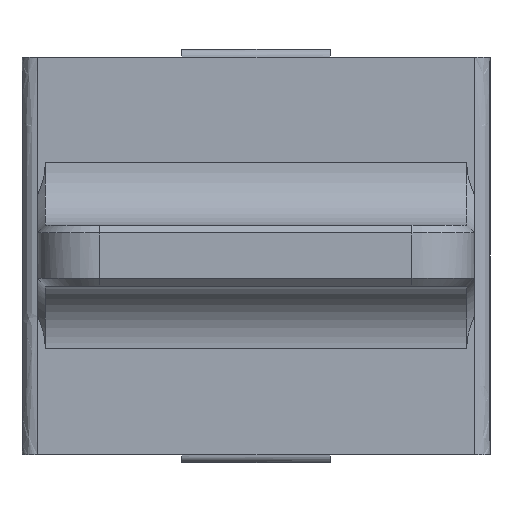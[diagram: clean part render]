
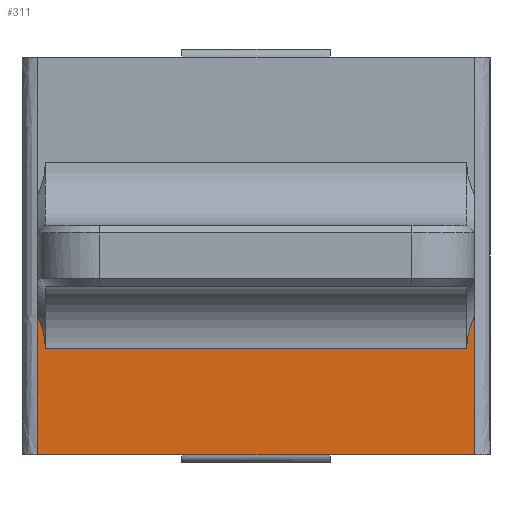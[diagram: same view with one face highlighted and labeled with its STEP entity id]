
A CAD part, front view. The second image highlights one B-rep face of the part: STEP entity #311.
In plain terms, the highlighted planar face has unit normal (0, -1, 0).
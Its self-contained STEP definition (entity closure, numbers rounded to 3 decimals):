
#311=ADVANCED_FACE('',(#863),#5978,.T.);
#863=FACE_OUTER_BOUND('',#1415,.T.);
#1415=EDGE_LOOP('',(#2926,#2927,#2928,#2929,#2930,#2931));
#2926=ORIENTED_EDGE('',*,*,#3962,.T.);
#2927=ORIENTED_EDGE('',*,*,#3939,.F.);
#2928=ORIENTED_EDGE('',*,*,#3935,.T.);
#2929=ORIENTED_EDGE('',*,*,#3966,.F.);
#2930=ORIENTED_EDGE('',*,*,#3965,.T.);
#2931=ORIENTED_EDGE('',*,*,#3381,.F.);
#3381=EDGE_CURVE('',#5235,#5234,#4493,.T.);
#3935=EDGE_CURVE('',#5597,#5596,#4461,.T.);
#3939=EDGE_CURVE('',#5597,#5237,#4465,.T.);
#3962=EDGE_CURVE('',#5235,#5237,#4484,.T.);
#3965=EDGE_CURVE('',#5239,#5234,#4487,.T.);
#3966=EDGE_CURVE('',#5239,#5596,#4488,.T.);
#4461=B_SPLINE_CURVE_WITH_KNOTS('',1,(#11715,#11716),.UNSPECIFIED.,.F.,
 .F.,(2,2),(2.,58.),.UNSPECIFIED.);
#4465=B_SPLINE_CURVE_WITH_KNOTS('',1,(#11723,#11724),.UNSPECIFIED.,.F.,
 .F.,(2,2),(0.,18.121),.UNSPECIFIED.);
#4484=B_SPLINE_CURVE_WITH_KNOTS('',3,(#11773,#11774,#11775,#11776,#11777,
#11778,#11779,#11780,#11781,#11782,#11783,#11784,#11785,#11786,#11787,#11788,
#11789,#11790,#11791,#11792),.UNSPECIFIED.,.F.,.F.,(4,1,1,1,1,1,1,1,1,1,
1,1,1,1,1,1,1,4),(0.,0.973,1.382,1.701,
1.972,2.214,2.436,2.642,2.836,
3.02,3.195,3.364,3.527,3.685,
3.838,3.987,4.133,4.275),
 .UNSPECIFIED.);
#4487=B_SPLINE_CURVE_WITH_KNOTS('',3,(#11821,#11822,#11823,#11824,#11825,
#11826,#11827,#11828,#11829,#11830,#11831,#11832,#11833,#11834,#11835,#11836,
#11837,#11838,#11839,#11840),.UNSPECIFIED.,.F.,.F.,(4,1,1,1,1,1,1,1,1,1,
1,1,1,1,1,1,1,4),(-4.275,-4.133,-3.987,
-3.838,-3.685,-3.527,-3.364,
-3.195,-3.02,-2.836,-2.642,
-2.436,-2.214,-1.972,-1.701,
-1.382,-0.973,0.),.UNSPECIFIED.);
#4488=B_SPLINE_CURVE_WITH_KNOTS('',1,(#11841,#11842),.UNSPECIFIED.,.F.,
 .F.,(2,2),(33.879,52.),.UNSPECIFIED.);
#4493=(
BOUNDED_CURVE()
B_SPLINE_CURVE(1,(#9851,#9852),.UNSPECIFIED.,.F.,.F.)
B_SPLINE_CURVE_WITH_KNOTS((2,2),(1.,55.),.UNSPECIFIED.)
CURVE()
GEOMETRIC_REPRESENTATION_ITEM()
RATIONAL_B_SPLINE_CURVE((1.,1.))
REPRESENTATION_ITEM('')
);
#5234=VERTEX_POINT('',#9251);
#5235=VERTEX_POINT('',#9252);
#5237=VERTEX_POINT('',#9254);
#5239=VERTEX_POINT('',#9256);
#5596=VERTEX_POINT('',#9613);
#5597=VERTEX_POINT('',#9614);
#5978=PLANE('',#6390);
#6390=AXIS2_PLACEMENT_3D('',#8128,#6532,$);
#6532=DIRECTION('',(0.,-1.,0.));
#8128=CARTESIAN_POINT('',(-28.,-22.,-25.5));
#9251=CARTESIAN_POINT('',(27.,-22.,-11.85));
#9252=CARTESIAN_POINT('',(-27.,-22.,-11.85));
#9254=CARTESIAN_POINT('',(-28.,-22.,-7.727));
#9256=CARTESIAN_POINT('',(28.,-22.,-7.727));
#9613=CARTESIAN_POINT('',(28.,-22.,-25.5));
#9614=CARTESIAN_POINT('',(-28.,-22.,-25.5));
#9851=CARTESIAN_POINT('',(-27.,-22.,-11.85));
#9852=CARTESIAN_POINT('',(27.,-22.,-11.85));
#11715=CARTESIAN_POINT('',(-28.,-22.,-25.5));
#11716=CARTESIAN_POINT('',(28.,-22.,-25.5));
#11723=CARTESIAN_POINT('',(-28.,-22.,-25.5));
#11724=CARTESIAN_POINT('',(-28.,-22.,-7.727));
#11773=CARTESIAN_POINT('',(-27.,-22.,-11.85));
#11774=CARTESIAN_POINT('',(-27.,-22.,-11.526));
#11775=CARTESIAN_POINT('',(-27.028,-22.,-11.064));
#11776=CARTESIAN_POINT('',(-27.11,-22.,-10.503));
#11777=CARTESIAN_POINT('',(-27.172,-22.,-10.176));
#11778=CARTESIAN_POINT('',(-27.232,-22.,-9.905));
#11779=CARTESIAN_POINT('',(-27.291,-22.,-9.667));
#11780=CARTESIAN_POINT('',(-27.351,-22.,-9.452));
#11781=CARTESIAN_POINT('',(-27.41,-22.,-9.254));
#11782=CARTESIAN_POINT('',(-27.469,-22.,-9.068));
#11783=CARTESIAN_POINT('',(-27.528,-22.,-8.893));
#11784=CARTESIAN_POINT('',(-27.587,-22.,-8.727));
#11785=CARTESIAN_POINT('',(-27.646,-22.,-8.569));
#11786=CARTESIAN_POINT('',(-27.705,-22.,-8.417));
#11787=CARTESIAN_POINT('',(-27.764,-22.,-8.27));
#11788=CARTESIAN_POINT('',(-27.823,-22.,-8.129));
#11789=CARTESIAN_POINT('',(-27.882,-22.,-7.991));
#11790=CARTESIAN_POINT('',(-27.941,-22.,-7.858));
#11791=CARTESIAN_POINT('',(-27.98,-22.,-7.77));
#11792=CARTESIAN_POINT('',(-28.,-22.,-7.727));
#11821=CARTESIAN_POINT('',(28.,-22.,-7.727));
#11822=CARTESIAN_POINT('',(27.98,-22.,-7.77));
#11823=CARTESIAN_POINT('',(27.941,-22.,-7.858));
#11824=CARTESIAN_POINT('',(27.882,-22.,-7.991));
#11825=CARTESIAN_POINT('',(27.823,-22.,-8.129));
#11826=CARTESIAN_POINT('',(27.764,-22.,-8.27));
#11827=CARTESIAN_POINT('',(27.705,-22.,-8.417));
#11828=CARTESIAN_POINT('',(27.646,-22.,-8.569));
#11829=CARTESIAN_POINT('',(27.587,-22.,-8.727));
#11830=CARTESIAN_POINT('',(27.528,-22.,-8.893));
#11831=CARTESIAN_POINT('',(27.469,-22.,-9.068));
#11832=CARTESIAN_POINT('',(27.41,-22.,-9.254));
#11833=CARTESIAN_POINT('',(27.351,-22.,-9.452));
#11834=CARTESIAN_POINT('',(27.291,-22.,-9.667));
#11835=CARTESIAN_POINT('',(27.232,-22.,-9.905));
#11836=CARTESIAN_POINT('',(27.172,-22.,-10.176));
#11837=CARTESIAN_POINT('',(27.11,-22.,-10.503));
#11838=CARTESIAN_POINT('',(27.028,-22.,-11.064));
#11839=CARTESIAN_POINT('',(27.,-22.,-11.526));
#11840=CARTESIAN_POINT('',(27.,-22.,-11.85));
#11841=CARTESIAN_POINT('',(28.,-22.,-7.727));
#11842=CARTESIAN_POINT('',(28.,-22.,-25.5));
